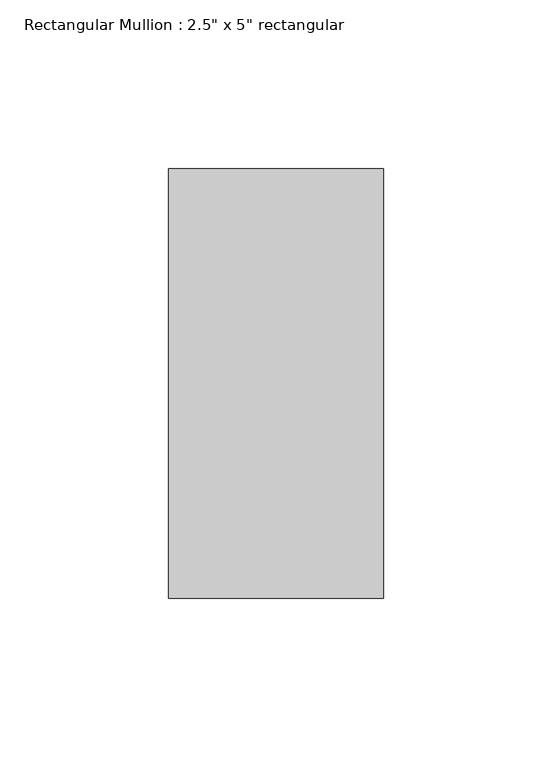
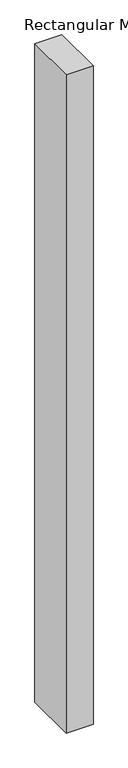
"""IFC4 building model written with IfcOpenShell, lengths in millimetres: member geometry."""

import ifcopenshell
import ifcopenshell.guid

model = None  # the IFC model being written
_history = None  # IfcOwnerHistory: only IFC2X3 demands one
_inside = {}  # id of a spatial element -> (the spatial element, [elements in it])
_under = {}  # id of a project, library or spatial element -> (it, [spatial elements below it])
_declared = {}  # id of a project -> (the project, [libraries it declares])
_typed = {}  # id of a type object -> (the type object, [elements of that type])
_made_of = {}  # id of a material, layer set ... -> (it, [elements and type objects made of it])


def new_model(schema):
    """Start an empty IFC model of exactly this schema.

    Asked for "IFC4X3", IfcOpenShell would pick the latest addendum, in which some entities
    have other attributes; the version numbers below select the first issue.
    IFC2X3 requires an IfcOwnerHistory on every rooted entity: one is made here for all.
    """
    global model, _history
    if schema == "IFC4X3":
        model = ifcopenshell.file(schema_version=(4, 3, 0, 0))
    else:
        model = ifcopenshell.file(schema=schema)
    _inside.clear()
    _under.clear()
    _declared.clear()
    _typed.clear()
    _made_of.clear()
    _history = None
    if model.schema == "IFC2X3":
        org = make("IfcOrganization", Name="unknown")
        user = make(
            "IfcPersonAndOrganization",
            ThePerson=make("IfcPerson", FamilyName="unknown"),
            TheOrganization=org,
        )
        app = make(
            "IfcApplication",
            ApplicationDeveloper=org,
            Version="unknown",
            ApplicationFullName="unknown",
            ApplicationIdentifier="unknown",
        )
        _history = make(
            "IfcOwnerHistory",
            OwningUser=user,
            OwningApplication=app,
            ChangeAction="ADDED",
            CreationDate=0,
        )
    return model


def make(cls, **values):
    """One entity of the class cls with the attributes given. An attribute that is None is left unset."""
    return model.create_entity(
        cls, **{name: value for name, value in values.items() if value is not None}
    )


def rooted(cls, **values):
    """An entity with a GlobalId (a new one), such as an element, a storey or a relation."""
    return make(cls, GlobalId=ifcopenshell.guid.new(), OwnerHistory=_history, **values)


def si_unit(unit_type, name, prefix=None):
    """IfcSIUnit, for example si_unit("LENGTHUNIT", "METRE", prefix="MILLI")."""
    return make("IfcSIUnit", UnitType=unit_type, Prefix=prefix, Name=name)


def assignment(units):
    """IfcUnitAssignment: the units of a project."""
    return None if units is None else make("IfcUnitAssignment", Units=units)


def point(xyz):
    """IfcCartesianPoint."""
    return None if xyz is None else make("IfcCartesianPoint", Coordinates=xyz)


def direction(xyz):
    """IfcDirection."""
    return None if xyz is None else make("IfcDirection", DirectionRatios=xyz)


def frame(location, z_axis=None, x_axis=None):
    """IfcAxis2Placement3D, a coordinate frame: its origin and axes. An axis left out is left unset."""
    return make(
        "IfcAxis2Placement3D",
        Location=point(location),
        Axis=direction(z_axis),
        RefDirection=direction(x_axis),
    )


def origin():
    """The frame at (0, 0, 0) with its axes left unset."""
    return frame((0.0, 0.0, 0.0))


def place(relative_to, where):
    """IfcLocalPlacement: puts the frame where relative to a parent placement (None: the world)."""
    return make(
        "IfcLocalPlacement", PlacementRelTo=relative_to, RelativePlacement=where
    )


def context(
    kind, dimensions, precision=None, world=None, true_north=None, identifier=None
):
    """IfcGeometricRepresentationContext, for example the 3D "Model" context."""
    return make(
        "IfcGeometricRepresentationContext",
        ContextIdentifier=identifier,
        ContextType=kind,
        CoordinateSpaceDimension=dimensions,
        Precision=precision,
        WorldCoordinateSystem=world,
        TrueNorth=true_north,
    )


def project(units=None, contexts=None):
    """IfcProject with its units and contexts."""
    return rooted(
        "IfcProject",
        Name="project",
        RepresentationContexts=contexts,
        UnitsInContext=assignment(units),
    )


def spatial(cls, under=None, at=None, **own):
    """A site, building, storey or space (cls), placed at a placement, below another one or the project."""
    s = rooted(cls, ObjectPlacement=at, **own)
    if under is not None:
        _under.setdefault(under.id(), (under, []))[1].append(s)
    return s


def polyline(points):
    """IfcPolyline through the points."""
    return make("IfcPolyline", Points=[point(p) for p in points])


def outline(outer, holes=None, kind="AREA"):
    """IfcArbitraryClosedProfileDef: a profile drawn as a closed curve; with holes, ...WithVoids."""
    if holes is None:
        return make("IfcArbitraryClosedProfileDef", ProfileType=kind, OuterCurve=outer)
    return make(
        "IfcArbitraryProfileDefWithVoids",
        ProfileType=kind,
        OuterCurve=outer,
        InnerCurves=holes,
    )


def extrude(swept, where, along, depth):
    """IfcExtrudedAreaSolid: the profile swept, set in the frame where, extruded along a direction by depth."""
    return make(
        "IfcExtrudedAreaSolid",
        SweptArea=swept,
        Position=where,
        ExtrudedDirection=direction(along),
        Depth=depth,
    )


def shape(context_of_items, identifier, shape_type, items):
    """IfcShapeRepresentation: the items that make up one representation, for example the "Body"."""
    return make(
        "IfcShapeRepresentation",
        ContextOfItems=context_of_items,
        RepresentationIdentifier=identifier,
        RepresentationType=shape_type,
        Items=items,
    )


def source(mapping_origin, context_of_items, identifier, shape_type, items):
    """IfcRepresentationMap: a shape defined once, which mapped items show again and again."""
    return make(
        "IfcRepresentationMap",
        MappingOrigin=mapping_origin,
        MappedRepresentation=shape(context_of_items, identifier, shape_type, items),
    )


def transform(
    local_origin,
    x_axis=None,
    y_axis=None,
    z_axis=None,
    scale=None,
    scale2=None,
    scale3=None,
    uniform=True,
):
    """IfcCartesianTransformationOperator3D, or its non-uniform kind. x_axis, y_axis, z_axis: its Axis1, 2, 3."""
    if uniform:
        return make(
            "IfcCartesianTransformationOperator3D",
            Axis1=direction(x_axis),
            Axis2=direction(y_axis),
            LocalOrigin=point(local_origin),
            Scale=scale,
            Axis3=direction(z_axis),
        )
    return make(
        "IfcCartesianTransformationOperator3DnonUniform",
        Axis1=direction(x_axis),
        Axis2=direction(y_axis),
        LocalOrigin=point(local_origin),
        Scale=scale,
        Axis3=direction(z_axis),
        Scale2=scale2,
        Scale3=scale3,
    )


def mapped(mapping_source, mapping_target):
    """IfcMappedItem: shows the shape of a source again, moved by a transform."""
    return make(
        "IfcMappedItem", MappingSource=mapping_source, MappingTarget=mapping_target
    )


def made_of(thing, what):
    """Note that an element or type object is made of a material, layer set ...; save() writes the relation."""
    if what is not None:
        _made_of.setdefault(what.id(), (what, []))[1].append(thing)
    return thing


def element(
    cls,
    number,
    at=None,
    inside=None,
    cuts=None,
    type_object=None,
    material=None,
    context=None,
    identifier="Body",
    shape_type=None,
    held_by="IfcProductDefinitionShape",
    body=None,
    shapes=None,
    **own,
):
    """One element of the class cls, such as IfcWall. Its Tag is "e" and its number.

    at: its placement. inside: the storey or other place that contains it. cuts: it is an
    opening in that element (IfcRelVoidsElement). A single representation is given by context,
    identifier, shape_type and body (its items); several are given by shapes. held_by: the class
    of the entity that holds the representations. save() writes the other relations.
    """
    e = rooted(cls, Tag="e%d" % number, ObjectPlacement=at, **own)
    if body is not None:
        shapes = [shape(context, identifier, shape_type, body)]
    if shapes is not None:
        e.Representation = make(held_by, Representations=shapes)
    if inside is not None:
        _inside.setdefault(inside.id(), (inside, []))[1].append(e)
    if cuts is not None:
        rooted(
            "IfcRelVoidsElement", RelatingBuildingElement=cuts, RelatedOpeningElement=e
        )
    if type_object is not None:
        _typed.setdefault(type_object.id(), (type_object, []))[1].append(e)
    return made_of(e, material)


def aggregate(whole, parts):
    """IfcRelAggregates: a whole, such as a stair, and the parts it consists of."""
    return rooted("IfcRelAggregates", RelatingObject=whole, RelatedObjects=parts)


def save(model, path):
    """Write the relations noted so far, then the file.

    IfcRelAggregates (storeys below a building ...), IfcRelContainedInSpatialStructure (elements
    in a storey), IfcRelDefinesByType, IfcRelAssociatesMaterial and IfcRelDeclares: one each for
    every whole, place, type object, material and project.
    """
    for whole, parts in _under.values():
        aggregate(whole, parts)
    for where, things in _inside.values():
        rooted(
            "IfcRelContainedInSpatialStructure",
            RelatedElements=things,
            RelatingStructure=where,
        )
    for kind, things in _typed.values():
        rooted("IfcRelDefinesByType", RelatedObjects=things, RelatingType=kind)
    for what, things in _made_of.values():
        rooted("IfcRelAssociatesMaterial", RelatedObjects=things, RelatingMaterial=what)
    for by, libraries in _declared.values():
        rooted("IfcRelDeclares", RelatingContext=by, RelatedDefinitions=libraries)
    model.write(path)


def member_eba58f5c(model_context):
    return source(origin(), model_context, "Body", "SweptSolid", [
        extrude(outline(polyline([(31.75, 63.5), (31.75, -63.5), (-31.75, -63.5), (-31.75, 63.5), (31.75, 63.5)])), frame((0.0, 0.0, -1638.3), z_axis=(0.0, 0.0, 1.0), x_axis=(1.0, 0.0, 0.0)), (0.0, 0.0, 1.0), 1638.3),
    ])


if __name__ == "__main__":
    model = new_model("IFC4")
    model_context = context("Model", 3, world=origin())
    ifc_project = project(units=[si_unit("LENGTHUNIT", "METRE", prefix="MILLI")], contexts=[model_context])
    site = spatial("IfcSite", under=ifc_project)
    building = spatial("IfcBuilding", under=site)
    placement = place(None, origin())
    member_shape = member_eba58f5c(model_context)
    element("IfcMember", 1, ObjectType="Rectangular Mullion : 2.5\" x 5\" rectangular", at=placement, inside=building, context=model_context, shape_type="MappedRepresentation", body=[
        mapped(member_shape, transform((0.0, 0.0, 0.0), x_axis=(1.0, 0.0, 0.0), y_axis=(0.0, 1.0, 0.0), z_axis=(0.0, 0.0, 1.0))),
    ])
    save(model, "model.ifc")
